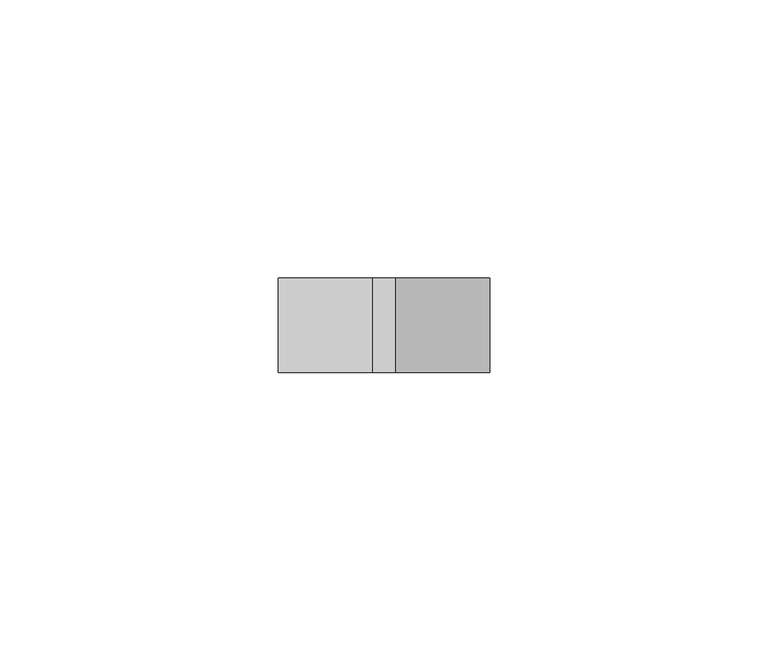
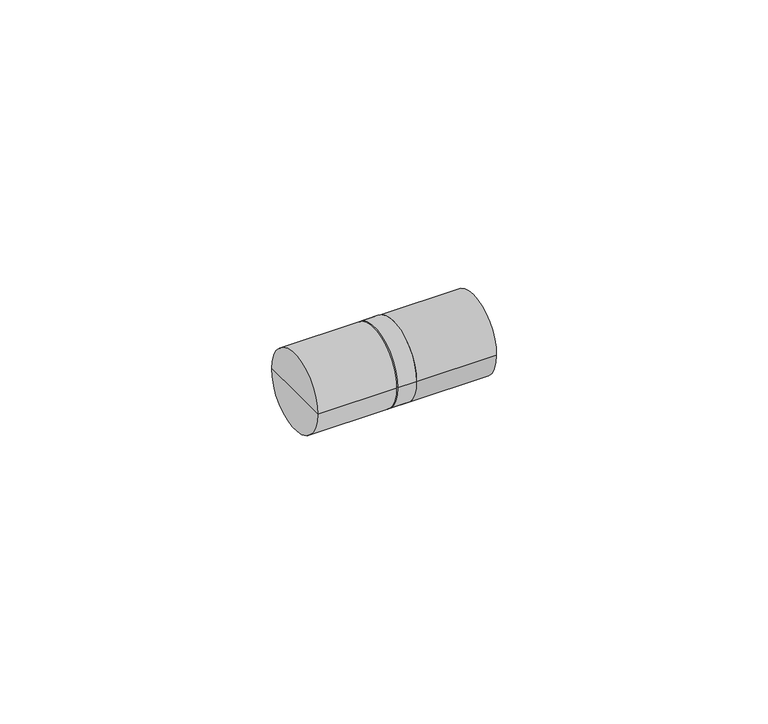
"""IFC4 building model written with IfcOpenShell, lengths in millimetres: pipe fitting geometry, KAN-therm Push łącznik : KAN-therm Push łącznik."""

from ifc_helpers import new_model, si_unit, frame, origin, place, context, project, spatial, circle_curve, source, transform, mapped, element, save
from ifc_brep_helpers import plane_surface, cylinder_surface, advanced_brep


def pipe_fitting_7f343e0d(model_context):
    return source(origin(), model_context, "Body", "AdvancedBrep", [
        advanced_brep(
        [(-2.0, -8.5, 0.0), (-2.0, 0.0, 0.0), (-2.0, 8.5, 0.0), (2.0, -8.5, 0.0), (2.0, 8.5, 0.0), (2.0, 0.0, 0.0)],
        [
            (0, 1),
            (1, 2),
            (2, 0, circle_curve(frame((-2.0, 0.0, 0.0), z_axis=(-1.0, 0.0, 0.0), x_axis=(0.0, 1.0, 0.0)), 8.5)),
            (0, 2, circle_curve(frame((-2.0, 0.0, 0.0), z_axis=(-1.0, 0.0, 0.0), x_axis=(0.0, 1.0, 0.0)), 8.5)),
            (3, 0),
            (2, 4),
            (4, 3, circle_curve(frame((2.0, 0.0, 0.0), z_axis=(-1.0, 0.0, 0.0), x_axis=(0.0, 1.0, 0.0)), 8.5)),
            (3, 4, circle_curve(frame((2.0, 0.0, 0.0), z_axis=(-1.0, 0.0, 0.0), x_axis=(0.0, 1.0, 0.0)), 8.5)),
            (5, 3),
            (4, 5),
        ],
        [
            plane_surface(frame((-2.0, 0.0, 0.0), z_axis=(-1.0, 0.0, 0.0), x_axis=(0.0, 1.0, 0.0))),
            cylinder_surface(frame((-1996.0, 0.0, 0.0), z_axis=(1.0, 0.0, 0.0), x_axis=(0.0, 1.0, 0.0)), 8.5),
            plane_surface(frame((2.0, 0.0, 0.0), z_axis=(1.0, 0.0, 0.0), x_axis=(0.0, 1.0, 0.0))),
        ],
        [
            (0, [[1, 2, 3]]),
            (0, [[-2, -1, 4]]),
            (1, [[5, -3, 6, 7]]),
            (1, [[-6, -4, -5, 8]]),
            (2, [[9, -7, 10]]),
            (2, [[-10, -8, -9]]),
        ],
    ),
        advanced_brep(
        [(-19.0, -8.5, 0.0), (-19.0, 0.0, 0.0), (-19.0, 8.5, 0.0), (-2.0, -8.5, 0.0), (-2.0, 8.5, 0.0), (-2.0, 0.0, 0.0)],
        [
            (0, 1),
            (1, 2),
            (2, 0, circle_curve(frame((-19.0, 0.0, 0.0), z_axis=(-1.0, 0.0, 0.0), x_axis=(0.0, 1.0, 0.0)), 8.5)),
            (0, 2, circle_curve(frame((-19.0, 0.0, 0.0), z_axis=(-1.0, 0.0, 0.0), x_axis=(0.0, 1.0, 0.0)), 8.5)),
            (3, 0),
            (2, 4),
            (4, 3, circle_curve(frame((-2.0, 0.0, 0.0), z_axis=(-1.0, 0.0, 0.0), x_axis=(0.0, 1.0, 0.0)), 8.5)),
            (3, 4, circle_curve(frame((-2.0, 0.0, 0.0), z_axis=(-1.0, 0.0, 0.0), x_axis=(0.0, 1.0, 0.0)), 8.5)),
            (5, 3),
            (4, 5),
        ],
        [
            plane_surface(frame((-19.0, 0.0, 0.0), z_axis=(-1.0, 0.0, 0.0), x_axis=(0.0, 1.0, 0.0))),
            cylinder_surface(frame((-1996.0, 0.0, 0.0), z_axis=(1.0, 0.0, 0.0), x_axis=(0.0, 1.0, 0.0)), 8.5),
            plane_surface(frame((-2.0, 0.0, 0.0), z_axis=(1.0, 0.0, 0.0), x_axis=(0.0, 1.0, 0.0))),
        ],
        [
            (0, [[1, 2, 3]]),
            (0, [[-2, -1, 4]]),
            (1, [[5, -3, 6, 7]]),
            (1, [[-6, -4, -5, 8]]),
            (2, [[9, -7, 10]]),
            (2, [[-10, -8, -9]]),
        ],
    ),
        advanced_brep(
        [(2.0, -8.5, 0.0), (2.0, 8.5, 0.0), (2.0, 0.0, 0.0), (-2.0, -8.5, 0.0), (-2.0, 8.5, 0.0), (-2.0, 0.0, 0.0)],
        [
            (0, 1, circle_curve(frame((2.0, 0.0, 0.0), z_axis=(1.0, 0.0, 0.0), x_axis=(0.0, 1.0, 0.0)), 8.5)),
            (1, 2),
            (2, 0),
            (1, 0, circle_curve(frame((2.0, 0.0, 0.0), z_axis=(1.0, 0.0, 0.0), x_axis=(0.0, 1.0, 0.0)), 8.5)),
            (3, 4, circle_curve(frame((-2.0, 0.0, 0.0), z_axis=(1.0, 0.0, 0.0), x_axis=(0.0, 1.0, 0.0)), 8.5)),
            (4, 1),
            (0, 3),
            (4, 3, circle_curve(frame((-2.0, 0.0, 0.0), z_axis=(1.0, 0.0, 0.0), x_axis=(0.0, 1.0, 0.0)), 8.5)),
            (5, 4),
            (3, 5),
        ],
        [
            plane_surface(frame((2.0, 0.0, 0.0), z_axis=(1.0, 0.0, 0.0), x_axis=(0.0, 1.0, 0.0))),
            cylinder_surface(frame((1996.0, 0.0, 0.0), z_axis=(-1.0, 0.0, 0.0), x_axis=(0.0, 1.0, 0.0)), 8.5),
            plane_surface(frame((-2.0, 0.0, 0.0), z_axis=(-1.0, 0.0, 0.0), x_axis=(0.0, 1.0, 0.0))),
        ],
        [
            (0, [[1, 2, 3]]),
            (0, [[4, -3, -2]]),
            (1, [[5, 6, -1, 7]]),
            (1, [[8, -7, -4, -6]]),
            (2, [[9, -5, 10]]),
            (2, [[-10, -8, -9]]),
        ],
    ),
        advanced_brep(
        [(19.0, -8.5, 0.0), (19.0, 8.5, 0.0), (19.0, 0.0, 0.0), (2.0, -8.5, 0.0), (2.0, 8.5, 0.0), (2.0, 0.0, 0.0)],
        [
            (0, 1, circle_curve(frame((19.0, 0.0, 0.0), z_axis=(1.0, 0.0, 0.0), x_axis=(0.0, 1.0, 0.0)), 8.5)),
            (1, 2),
            (2, 0),
            (1, 0, circle_curve(frame((19.0, 0.0, 0.0), z_axis=(1.0, 0.0, 0.0), x_axis=(0.0, 1.0, 0.0)), 8.5)),
            (3, 4, circle_curve(frame((2.0, 0.0, 0.0), z_axis=(1.0, 0.0, 0.0), x_axis=(0.0, 1.0, 0.0)), 8.5)),
            (4, 1),
            (0, 3),
            (4, 3, circle_curve(frame((2.0, 0.0, 0.0), z_axis=(1.0, 0.0, 0.0), x_axis=(0.0, 1.0, 0.0)), 8.5)),
            (5, 4),
            (3, 5),
        ],
        [
            plane_surface(frame((19.0, 0.0, 0.0), z_axis=(1.0, 0.0, 0.0), x_axis=(0.0, 1.0, 0.0))),
            cylinder_surface(frame((1996.0, 0.0, 0.0), z_axis=(-1.0, 0.0, 0.0), x_axis=(0.0, 1.0, 0.0)), 8.5),
            plane_surface(frame((2.0, 0.0, 0.0), z_axis=(-1.0, 0.0, 0.0), x_axis=(0.0, 1.0, 0.0))),
        ],
        [
            (0, [[1, 2, 3]]),
            (0, [[4, -3, -2]]),
            (1, [[5, 6, -1, 7]]),
            (1, [[8, -7, -4, -6]]),
            (2, [[9, -5, 10]]),
            (2, [[-10, -8, -9]]),
        ],
    ),
        advanced_brep(
        [(2.0, -6.0, 0.0), (2.0, 6.0, 0.0), (2.0, 0.0, 0.0), (-2.0, -6.0, 0.0), (-2.0, 6.0, 0.0), (-2.0, 0.0, 0.0)],
        [
            (0, 1, circle_curve(frame((2.0, 0.0, 0.0), z_axis=(1.0, 0.0, 0.0), x_axis=(0.0, 1.0, 0.0)), 6.0)),
            (1, 2),
            (2, 0),
            (1, 0, circle_curve(frame((2.0, 0.0, 0.0), z_axis=(1.0, 0.0, 0.0), x_axis=(0.0, 1.0, 0.0)), 6.0)),
            (3, 4, circle_curve(frame((-2.0, 0.0, 0.0), z_axis=(1.0, 0.0, 0.0), x_axis=(0.0, 1.0, 0.0)), 6.0)),
            (4, 1),
            (0, 3),
            (4, 3, circle_curve(frame((-2.0, 0.0, 0.0), z_axis=(1.0, 0.0, 0.0), x_axis=(0.0, 1.0, 0.0)), 6.0)),
            (5, 4),
            (3, 5),
        ],
        [
            plane_surface(frame((2.0, 0.0, 0.0), z_axis=(1.0, 0.0, 0.0), x_axis=(0.0, 1.0, 0.0))),
            cylinder_surface(frame((1996.0, 0.0, 0.0), z_axis=(-1.0, 0.0, 0.0), x_axis=(0.0, 1.0, 0.0)), 6.0),
            plane_surface(frame((-2.0, 0.0, 0.0), z_axis=(-1.0, 0.0, 0.0), x_axis=(0.0, 1.0, 0.0))),
        ],
        [
            (0, [[1, 2, 3]]),
            (0, [[4, -3, -2]]),
            (1, [[5, 6, -1, 7]]),
            (1, [[8, -7, -4, -6]]),
            (2, [[9, -5, 10]]),
            (2, [[-10, -8, -9]]),
        ],
    ),
    ])


if __name__ == "__main__":
    model = new_model("IFC4")
    model_context = context("Model", 3, world=origin())
    ifc_project = project(units=[si_unit("LENGTHUNIT", "METRE", prefix="MILLI")], contexts=[model_context])
    site = spatial("IfcSite", under=ifc_project)
    building = spatial("IfcBuilding", under=site)
    placement = place(None, origin())
    pipe_fitting_shape = pipe_fitting_7f343e0d(model_context)
    element("IfcPipeFitting", 1, ObjectType="KAN-therm Push łącznik : KAN-therm Push łącznik", at=placement, inside=building, context=model_context, shape_type="MappedRepresentation", body=[
        mapped(pipe_fitting_shape, transform((0.0, 0.0, 0.0), x_axis=(1.0, 0.0, 0.0), y_axis=(0.0, 1.0, 0.0), z_axis=(0.0, 0.0, 1.0))),
    ])
    save(model, "model.ifc")
